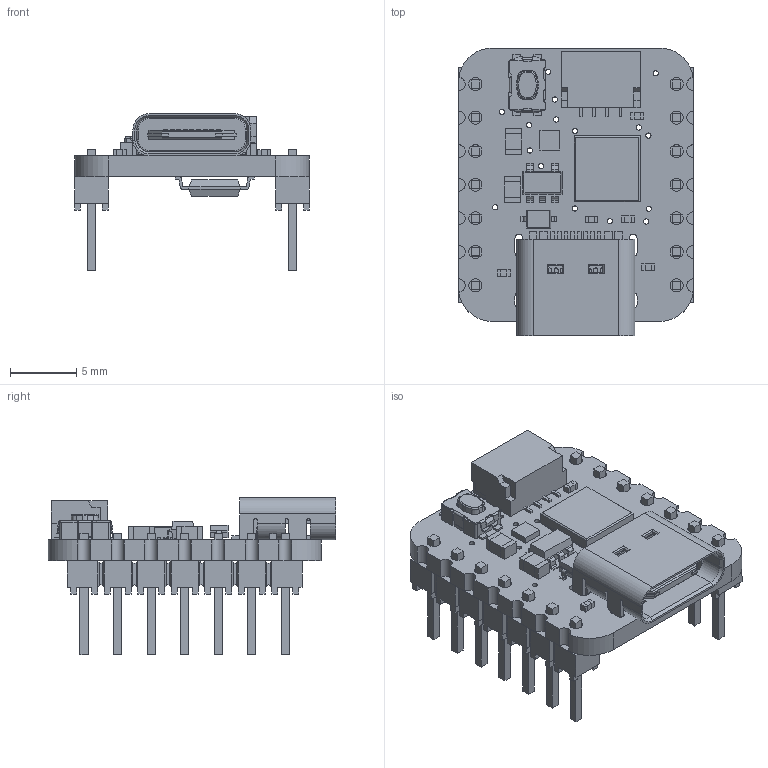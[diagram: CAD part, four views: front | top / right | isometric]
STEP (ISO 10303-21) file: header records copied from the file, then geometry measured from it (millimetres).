
FILE_DESCRIPTION (( 'STEP AP214' ), '1' );
FILE_NAME ('899-091.STEP', '2026-08-14T21:04:45', ( '' ), ( '' ), 'SwSTEP 2.0', 'SolidWorks 2020', '' );
FILE_SCHEMA (( 'AUTOMOTIVE_DESIGN' ));
Length unit declared in the file: millimetre
Products named in the file (19): SOIC8_150MIL.step; Board.step; MTSW-107-07-G-S-150_body.stp; reset.step; STEMMA_I2C_QTSKINNY.step; MTSW-107-07-S-150.stp;   NSR0320.step; 10uF.step; 899-091; WS2812B_SK6805_1515.step; USB TYPE C.step; MTSW-107-07-G-S-150.stp; AP2112K-3.3.step; 5.1K.step; DGS4XX_QTA; ATSAMD21E.step; 4600 QTPy.step
Assembly tree (24 placements, depth 4):
  899-091
    DGS4XX_QTA
      4600 QTPy.step
        Board.step
        10uF.step  x2
        reset.step
        ATSAMD21E.step
        5.1K.step  x5
        USB TYPE C.step
        STEMMA_I2C_QTSKINNY.step
        AP2112K-3.3.step
        WS2812B_SK6805_1515.step
          NSR0320.step
        SOIC8_150MIL.step
      MTSW-107-07-G-S-150.stp
        MTSW-107-07-G-S-150_body.stp
        MTSW-107-07-S-150.stp
      MTSW-107-07-G-S-150.stp
        MTSW-107-07-G-S-150_body.stp
        MTSW-107-07-S-150.stp
Bounding box: 17.78 x 21.8 x 11.89 mm (x, y, z)
Volume: 984.8 mm3; surface area: 2724.3 mm2
Topology: 58 solids, 58 shells, 2133 faces, 5568 edges, 3590 vertices
Faces by surface type: plane 1731, cylinder 348, bspline 20, torus 16, cone 12, sphere 6
Full cylindrical faces by diameter (mm): 0.39 x1, 0.394 x34, 0.5 x2, 0.65 x2, 1 x14
Entity records: 58573 total; most frequent: CARTESIAN_POINT 11245, ORIENTED_EDGE 9426, DIRECTION 9011, EDGE_CURVE 4713, LINE 3935, VECTOR 3935, VERTEX_POINT 3084, AXIS2_PLACEMENT_3D 2538
